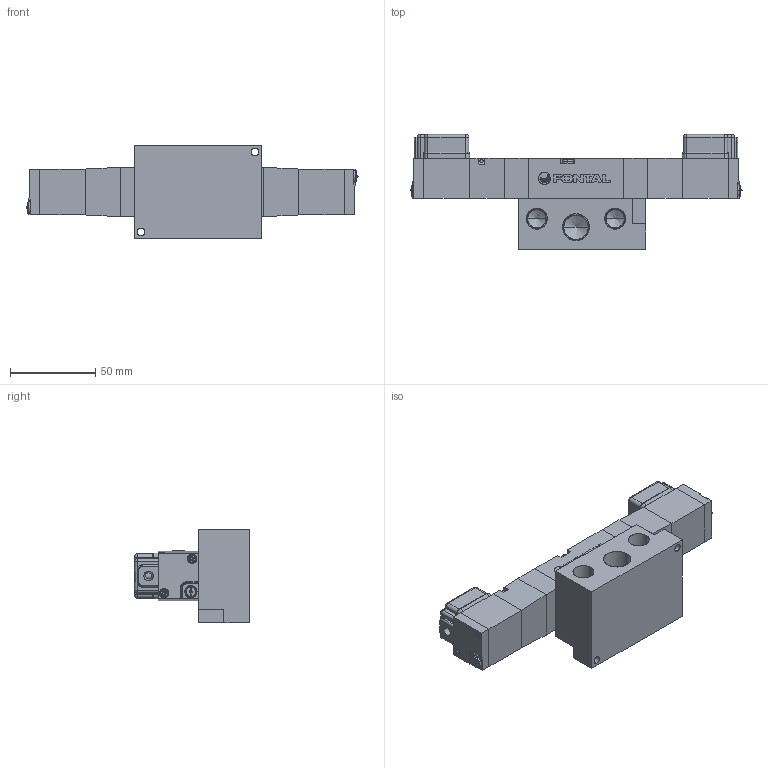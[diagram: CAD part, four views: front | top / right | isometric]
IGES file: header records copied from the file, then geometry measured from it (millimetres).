
Start section: SolidWorks IGES file using analytic representation for surfaces
Global section: file name: D:\Custom\3D繪製\PC\PC08\PCD3408#-03-#G#.IGS,1; native system: 5HSolidWorks 2014; preprocessor: SolidWorks 2014; author: Chieh_Lu; date: 150803.153208; units: millimetre
Bounding box: 194.95 x 67.5 x 55 mm (x, y, z)
Surface area: 61579.9 mm2 (no closed solid volume)
Topology: 0 solids, 0 shells, 690 faces, 6398 edges, 6362 vertices
Faces by surface type: bspline 428, revolution 262
